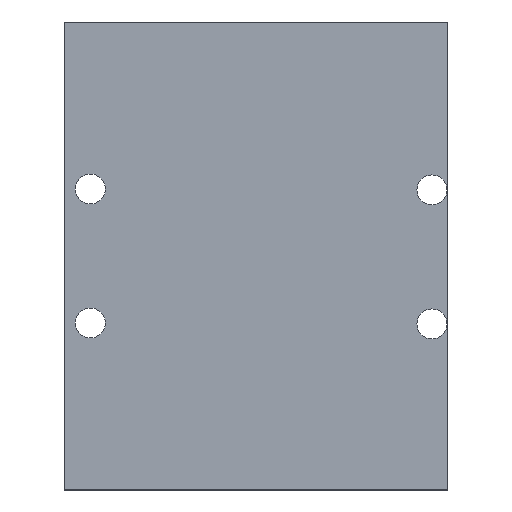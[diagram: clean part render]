
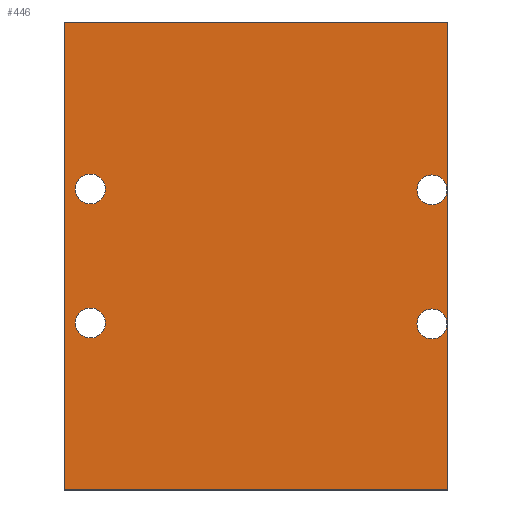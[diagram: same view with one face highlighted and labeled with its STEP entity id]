
A CAD part, top view. The second image highlights one B-rep face of the part: STEP entity #446.
In plain terms, the highlighted planar face has unit normal (0, 0, 1).
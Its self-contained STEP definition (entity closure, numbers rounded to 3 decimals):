
#35 = VERTEX_POINT('',#36);
#36 = CARTESIAN_POINT('',(110.15,-47.6,0.598));
#43 = PLANE('',#44);
#44 = AXIS2_PLACEMENT_3D('',#45,#46,#47);
#45 = CARTESIAN_POINT('',(110.15,-47.6,0.));
#46 = DIRECTION('',(0.,-1.,0.));
#47 = DIRECTION('',(-1.,0.,0.));
#55 = PLANE('',#56);
#56 = AXIS2_PLACEMENT_3D('',#57,#58,#59);
#57 = CARTESIAN_POINT('',(110.15,-72.6,0.));
#58 = DIRECTION('',(-1.,0.,0.));
#59 = DIRECTION('',(0.,1.,0.));
#67 = EDGE_CURVE('',#35,#68,#70,.T.);
#68 = VERTEX_POINT('',#69);
#69 = CARTESIAN_POINT('',(89.65,-47.6,0.598));
#70 = SURFACE_CURVE('',#71,(#75,#82),.PCURVE_S1.);
#71 = LINE('',#72,#73);
#72 = CARTESIAN_POINT('',(110.15,-47.6,0.598));
#73 = VECTOR('',#74,1.);
#74 = DIRECTION('',(-1.,0.,0.));
#75 = PCURVE('',#43,#76);
#76 = DEFINITIONAL_REPRESENTATION('',(#77),#81);
#77 = LINE('',#78,#79);
#78 = CARTESIAN_POINT('',(0.,-0.598));
#79 = VECTOR('',#80,1.);
#80 = DIRECTION('',(1.,0.));
#81 = ( GEOMETRIC_REPRESENTATION_CONTEXT(2) 
PARAMETRIC_REPRESENTATION_CONTEXT() REPRESENTATION_CONTEXT('2D SPACE',''
  ) );
#82 = PCURVE('',#83,#88);
#83 = PLANE('',#84);
#84 = AXIS2_PLACEMENT_3D('',#85,#86,#87);
#85 = CARTESIAN_POINT('',(99.9,-60.1,0.598));
#86 = DIRECTION('',(0.,0.,1.));
#87 = DIRECTION('',(1.,0.,-0.));
#88 = DEFINITIONAL_REPRESENTATION('',(#89),#93);
#89 = LINE('',#90,#91);
#90 = CARTESIAN_POINT('',(10.25,12.5));
#91 = VECTOR('',#92,1.);
#92 = DIRECTION('',(-1.,0.));
#93 = ( GEOMETRIC_REPRESENTATION_CONTEXT(2) 
PARAMETRIC_REPRESENTATION_CONTEXT() REPRESENTATION_CONTEXT('2D SPACE',''
  ) );
#111 = PLANE('',#112);
#112 = AXIS2_PLACEMENT_3D('',#113,#114,#115);
#113 = CARTESIAN_POINT('',(89.65,-47.6,0.));
#114 = DIRECTION('',(1.,0.,-0.));
#115 = DIRECTION('',(0.,-1.,0.));
#155 = VERTEX_POINT('',#156);
#156 = CARTESIAN_POINT('',(110.15,-72.6,0.598));
#170 = PLANE('',#171);
#171 = AXIS2_PLACEMENT_3D('',#172,#173,#174);
#172 = CARTESIAN_POINT('',(89.65,-72.6,0.));
#173 = DIRECTION('',(0.,1.,0.));
#174 = DIRECTION('',(1.,0.,0.));
#182 = EDGE_CURVE('',#155,#35,#183,.T.);
#183 = SURFACE_CURVE('',#184,(#188,#195),.PCURVE_S1.);
#184 = LINE('',#185,#186);
#185 = CARTESIAN_POINT('',(110.15,-72.6,0.598));
#186 = VECTOR('',#187,1.);
#187 = DIRECTION('',(0.,1.,0.));
#188 = PCURVE('',#55,#189);
#189 = DEFINITIONAL_REPRESENTATION('',(#190),#194);
#190 = LINE('',#191,#192);
#191 = CARTESIAN_POINT('',(0.,-0.598));
#192 = VECTOR('',#193,1.);
#193 = DIRECTION('',(1.,0.));
#194 = ( GEOMETRIC_REPRESENTATION_CONTEXT(2) 
PARAMETRIC_REPRESENTATION_CONTEXT() REPRESENTATION_CONTEXT('2D SPACE',''
  ) );
#195 = PCURVE('',#83,#196);
#196 = DEFINITIONAL_REPRESENTATION('',(#197),#201);
#197 = LINE('',#198,#199);
#198 = CARTESIAN_POINT('',(10.25,-12.5));
#199 = VECTOR('',#200,1.);
#200 = DIRECTION('',(0.,1.));
#201 = ( GEOMETRIC_REPRESENTATION_CONTEXT(2) 
PARAMETRIC_REPRESENTATION_CONTEXT() REPRESENTATION_CONTEXT('2D SPACE',''
  ) );
#229 = EDGE_CURVE('',#68,#230,#232,.T.);
#230 = VERTEX_POINT('',#231);
#231 = CARTESIAN_POINT('',(89.65,-72.6,0.598));
#232 = SURFACE_CURVE('',#233,(#237,#244),.PCURVE_S1.);
#233 = LINE('',#234,#235);
#234 = CARTESIAN_POINT('',(89.65,-47.6,0.598));
#235 = VECTOR('',#236,1.);
#236 = DIRECTION('',(0.,-1.,0.));
#237 = PCURVE('',#111,#238);
#238 = DEFINITIONAL_REPRESENTATION('',(#239),#243);
#239 = LINE('',#240,#241);
#240 = CARTESIAN_POINT('',(0.,-0.598));
#241 = VECTOR('',#242,1.);
#242 = DIRECTION('',(1.,0.));
#243 = ( GEOMETRIC_REPRESENTATION_CONTEXT(2) 
PARAMETRIC_REPRESENTATION_CONTEXT() REPRESENTATION_CONTEXT('2D SPACE',''
  ) );
#244 = PCURVE('',#83,#245);
#245 = DEFINITIONAL_REPRESENTATION('',(#246),#250);
#246 = LINE('',#247,#248);
#247 = CARTESIAN_POINT('',(-10.25,12.5));
#248 = VECTOR('',#249,1.);
#249 = DIRECTION('',(0.,-1.));
#250 = ( GEOMETRIC_REPRESENTATION_CONTEXT(2) 
PARAMETRIC_REPRESENTATION_CONTEXT() REPRESENTATION_CONTEXT('2D SPACE',''
  ) );
#342 = CYLINDRICAL_SURFACE('',#343,0.8);
#343 = AXIS2_PLACEMENT_3D('',#344,#345,#346);
#344 = CARTESIAN_POINT('',(91.05,-63.68,-0.299));
#345 = DIRECTION('',(0.,0.,1.));
#346 = DIRECTION('',(1.,0.,-0.));
#373 = CYLINDRICAL_SURFACE('',#374,0.8);
#374 = AXIS2_PLACEMENT_3D('',#375,#376,#377);
#375 = CARTESIAN_POINT('',(109.3,-63.73,-0.299));
#376 = DIRECTION('',(0.,0.,1.));
#377 = DIRECTION('',(1.,0.,-0.));
#404 = CYLINDRICAL_SURFACE('',#405,0.8);
#405 = AXIS2_PLACEMENT_3D('',#406,#407,#408);
#406 = CARTESIAN_POINT('',(91.05,-56.52,-0.299));
#407 = DIRECTION('',(0.,0.,1.));
#408 = DIRECTION('',(1.,0.,-0.));
#435 = CYLINDRICAL_SURFACE('',#436,0.8);
#436 = AXIS2_PLACEMENT_3D('',#437,#438,#439);
#437 = CARTESIAN_POINT('',(109.3,-56.57,-0.299));
#438 = DIRECTION('',(0.,0.,1.));
#439 = DIRECTION('',(1.,0.,-0.));
#446 = ADVANCED_FACE('',(#447,#473,#499,#525,#551),#83,.T.);
#447 = FACE_BOUND('',#448,.T.);
#448 = EDGE_LOOP('',(#449,#450,#451,#472));
#449 = ORIENTED_EDGE('',*,*,#67,.T.);
#450 = ORIENTED_EDGE('',*,*,#229,.T.);
#451 = ORIENTED_EDGE('',*,*,#452,.T.);
#452 = EDGE_CURVE('',#230,#155,#453,.T.);
#453 = SURFACE_CURVE('',#454,(#458,#465),.PCURVE_S1.);
#454 = LINE('',#455,#456);
#455 = CARTESIAN_POINT('',(89.65,-72.6,0.598));
#456 = VECTOR('',#457,1.);
#457 = DIRECTION('',(1.,0.,0.));
#458 = PCURVE('',#83,#459);
#459 = DEFINITIONAL_REPRESENTATION('',(#460),#464);
#460 = LINE('',#461,#462);
#461 = CARTESIAN_POINT('',(-10.25,-12.5));
#462 = VECTOR('',#463,1.);
#463 = DIRECTION('',(1.,0.));
#464 = ( GEOMETRIC_REPRESENTATION_CONTEXT(2) 
PARAMETRIC_REPRESENTATION_CONTEXT() REPRESENTATION_CONTEXT('2D SPACE',''
  ) );
#465 = PCURVE('',#170,#466);
#466 = DEFINITIONAL_REPRESENTATION('',(#467),#471);
#467 = LINE('',#468,#469);
#468 = CARTESIAN_POINT('',(0.,-0.598));
#469 = VECTOR('',#470,1.);
#470 = DIRECTION('',(1.,0.));
#471 = ( GEOMETRIC_REPRESENTATION_CONTEXT(2) 
PARAMETRIC_REPRESENTATION_CONTEXT() REPRESENTATION_CONTEXT('2D SPACE',''
  ) );
#472 = ORIENTED_EDGE('',*,*,#182,.T.);
#473 = FACE_BOUND('',#474,.T.);
#474 = EDGE_LOOP('',(#475));
#475 = ORIENTED_EDGE('',*,*,#476,.F.);
#476 = EDGE_CURVE('',#477,#477,#479,.T.);
#477 = VERTEX_POINT('',#478);
#478 = CARTESIAN_POINT('',(91.85,-63.68,0.598));
#479 = SURFACE_CURVE('',#480,(#485,#492),.PCURVE_S1.);
#480 = CIRCLE('',#481,0.8);
#481 = AXIS2_PLACEMENT_3D('',#482,#483,#484);
#482 = CARTESIAN_POINT('',(91.05,-63.68,0.598));
#483 = DIRECTION('',(0.,0.,1.));
#484 = DIRECTION('',(1.,0.,-0.));
#485 = PCURVE('',#83,#486);
#486 = DEFINITIONAL_REPRESENTATION('',(#487),#491);
#487 = CIRCLE('',#488,0.8);
#488 = AXIS2_PLACEMENT_2D('',#489,#490);
#489 = CARTESIAN_POINT('',(-8.85,-3.58));
#490 = DIRECTION('',(1.,0.));
#491 = ( GEOMETRIC_REPRESENTATION_CONTEXT(2) 
PARAMETRIC_REPRESENTATION_CONTEXT() REPRESENTATION_CONTEXT('2D SPACE',''
  ) );
#492 = PCURVE('',#342,#493);
#493 = DEFINITIONAL_REPRESENTATION('',(#494),#498);
#494 = LINE('',#495,#496);
#495 = CARTESIAN_POINT('',(0.,0.897));
#496 = VECTOR('',#497,1.);
#497 = DIRECTION('',(1.,0.));
#498 = ( GEOMETRIC_REPRESENTATION_CONTEXT(2) 
PARAMETRIC_REPRESENTATION_CONTEXT() REPRESENTATION_CONTEXT('2D SPACE',''
  ) );
#499 = FACE_BOUND('',#500,.T.);
#500 = EDGE_LOOP('',(#501));
#501 = ORIENTED_EDGE('',*,*,#502,.F.);
#502 = EDGE_CURVE('',#503,#503,#505,.T.);
#503 = VERTEX_POINT('',#504);
#504 = CARTESIAN_POINT('',(110.1,-63.73,0.598));
#505 = SURFACE_CURVE('',#506,(#511,#518),.PCURVE_S1.);
#506 = CIRCLE('',#507,0.8);
#507 = AXIS2_PLACEMENT_3D('',#508,#509,#510);
#508 = CARTESIAN_POINT('',(109.3,-63.73,0.598));
#509 = DIRECTION('',(0.,0.,1.));
#510 = DIRECTION('',(1.,0.,-0.));
#511 = PCURVE('',#83,#512);
#512 = DEFINITIONAL_REPRESENTATION('',(#513),#517);
#513 = CIRCLE('',#514,0.8);
#514 = AXIS2_PLACEMENT_2D('',#515,#516);
#515 = CARTESIAN_POINT('',(9.4,-3.63));
#516 = DIRECTION('',(1.,0.));
#517 = ( GEOMETRIC_REPRESENTATION_CONTEXT(2) 
PARAMETRIC_REPRESENTATION_CONTEXT() REPRESENTATION_CONTEXT('2D SPACE',''
  ) );
#518 = PCURVE('',#373,#519);
#519 = DEFINITIONAL_REPRESENTATION('',(#520),#524);
#520 = LINE('',#521,#522);
#521 = CARTESIAN_POINT('',(0.,0.897));
#522 = VECTOR('',#523,1.);
#523 = DIRECTION('',(1.,0.));
#524 = ( GEOMETRIC_REPRESENTATION_CONTEXT(2) 
PARAMETRIC_REPRESENTATION_CONTEXT() REPRESENTATION_CONTEXT('2D SPACE',''
  ) );
#525 = FACE_BOUND('',#526,.T.);
#526 = EDGE_LOOP('',(#527));
#527 = ORIENTED_EDGE('',*,*,#528,.F.);
#528 = EDGE_CURVE('',#529,#529,#531,.T.);
#529 = VERTEX_POINT('',#530);
#530 = CARTESIAN_POINT('',(91.85,-56.52,0.598));
#531 = SURFACE_CURVE('',#532,(#537,#544),.PCURVE_S1.);
#532 = CIRCLE('',#533,0.8);
#533 = AXIS2_PLACEMENT_3D('',#534,#535,#536);
#534 = CARTESIAN_POINT('',(91.05,-56.52,0.598));
#535 = DIRECTION('',(0.,0.,1.));
#536 = DIRECTION('',(1.,0.,-0.));
#537 = PCURVE('',#83,#538);
#538 = DEFINITIONAL_REPRESENTATION('',(#539),#543);
#539 = CIRCLE('',#540,0.8);
#540 = AXIS2_PLACEMENT_2D('',#541,#542);
#541 = CARTESIAN_POINT('',(-8.85,3.58));
#542 = DIRECTION('',(1.,0.));
#543 = ( GEOMETRIC_REPRESENTATION_CONTEXT(2) 
PARAMETRIC_REPRESENTATION_CONTEXT() REPRESENTATION_CONTEXT('2D SPACE',''
  ) );
#544 = PCURVE('',#404,#545);
#545 = DEFINITIONAL_REPRESENTATION('',(#546),#550);
#546 = LINE('',#547,#548);
#547 = CARTESIAN_POINT('',(0.,0.897));
#548 = VECTOR('',#549,1.);
#549 = DIRECTION('',(1.,0.));
#550 = ( GEOMETRIC_REPRESENTATION_CONTEXT(2) 
PARAMETRIC_REPRESENTATION_CONTEXT() REPRESENTATION_CONTEXT('2D SPACE',''
  ) );
#551 = FACE_BOUND('',#552,.T.);
#552 = EDGE_LOOP('',(#553));
#553 = ORIENTED_EDGE('',*,*,#554,.F.);
#554 = EDGE_CURVE('',#555,#555,#557,.T.);
#555 = VERTEX_POINT('',#556);
#556 = CARTESIAN_POINT('',(110.1,-56.57,0.598));
#557 = SURFACE_CURVE('',#558,(#563,#570),.PCURVE_S1.);
#558 = CIRCLE('',#559,0.8);
#559 = AXIS2_PLACEMENT_3D('',#560,#561,#562);
#560 = CARTESIAN_POINT('',(109.3,-56.57,0.598));
#561 = DIRECTION('',(0.,0.,1.));
#562 = DIRECTION('',(1.,0.,-0.));
#563 = PCURVE('',#83,#564);
#564 = DEFINITIONAL_REPRESENTATION('',(#565),#569);
#565 = CIRCLE('',#566,0.8);
#566 = AXIS2_PLACEMENT_2D('',#567,#568);
#567 = CARTESIAN_POINT('',(9.4,3.53));
#568 = DIRECTION('',(1.,0.));
#569 = ( GEOMETRIC_REPRESENTATION_CONTEXT(2) 
PARAMETRIC_REPRESENTATION_CONTEXT() REPRESENTATION_CONTEXT('2D SPACE',''
  ) );
#570 = PCURVE('',#435,#571);
#571 = DEFINITIONAL_REPRESENTATION('',(#572),#576);
#572 = LINE('',#573,#574);
#573 = CARTESIAN_POINT('',(0.,0.897));
#574 = VECTOR('',#575,1.);
#575 = DIRECTION('',(1.,0.));
#576 = ( GEOMETRIC_REPRESENTATION_CONTEXT(2) 
PARAMETRIC_REPRESENTATION_CONTEXT() REPRESENTATION_CONTEXT('2D SPACE',''
  ) );
